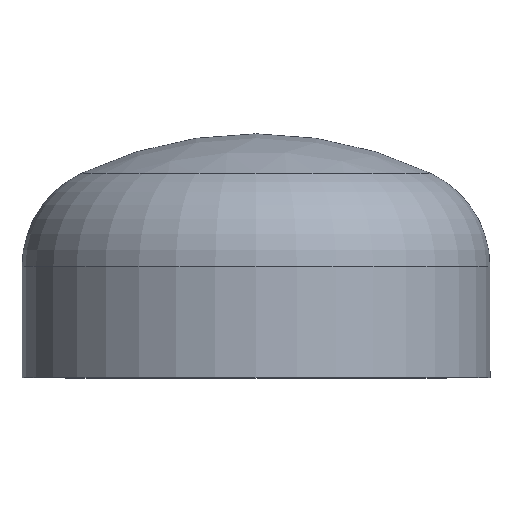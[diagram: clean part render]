
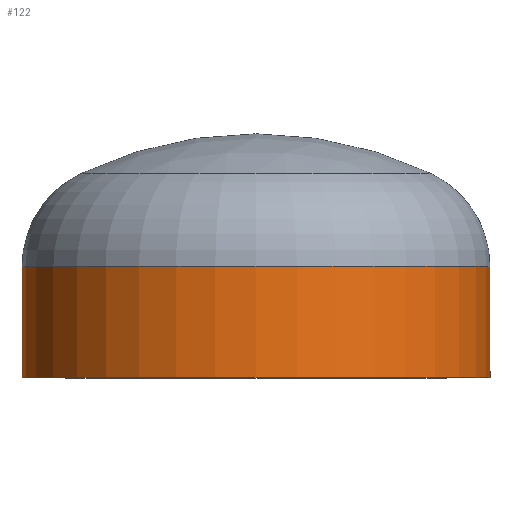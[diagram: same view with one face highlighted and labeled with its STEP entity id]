
A CAD part, top view. The second image highlights one B-rep face of the part: STEP entity #122.
In plain terms, the highlighted cylindrical face has radius 84.15 mm (diameter 168.3 mm), a partial arc.
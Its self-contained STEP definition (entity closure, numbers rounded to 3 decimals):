
#4 = CARTESIAN_POINT ( 'NONE',  ( 0., 0., 0. ) ) ;
#11 = ORIENTED_EDGE ( 'NONE', *, *, #390, .T. ) ;
#18 = ORIENTED_EDGE ( 'NONE', *, *, #232, .F. ) ;
#24 = CARTESIAN_POINT ( 'NONE',  ( -84.15, 40., 0. ) ) ;
#25 = DIRECTION ( 'NONE',  ( 1., 0., 0. ) ) ;
#37 = VERTEX_POINT ( 'NONE', #300 ) ;
#49 = VERTEX_POINT ( 'NONE', #24 ) ;
#60 = CARTESIAN_POINT ( 'NONE',  ( 84.15, 0., 0. ) ) ;
#69 = VERTEX_POINT ( 'NONE', #168 ) ;
#74 = EDGE_LOOP ( 'NONE', ( #11, #79, #227, #18 ) ) ;
#79 = ORIENTED_EDGE ( 'NONE', *, *, #195, .T. ) ;
#89 = VERTEX_POINT ( 'NONE', #353 ) ;
#97 = AXIS2_PLACEMENT_3D ( 'NONE', #335, #368, #349 ) ;
#122 = ADVANCED_FACE ( 'NONE', ( #205 ), #343, .T. ) ;
#153 = DIRECTION ( 'NONE',  ( 0., -1., 0. ) ) ;
#155 = DIRECTION ( 'NONE',  ( 0., -1., 0. ) ) ;
#156 = CARTESIAN_POINT ( 'NONE',  ( -84.15, 0., 0. ) ) ;
#166 = DIRECTION ( 'NONE',  ( 0., -1., 0. ) ) ;
#168 = CARTESIAN_POINT ( 'NONE',  ( 84.15, 0., 0. ) ) ;
#174 = AXIS2_PLACEMENT_3D ( 'NONE', #4, #262, #211 ) ;
#183 = VECTOR ( 'NONE', #153, 1000. ) ;
#190 = VECTOR ( 'NONE', #155, 1000. ) ;
#195 = EDGE_CURVE ( 'NONE', #49, #89, #260, .T. ) ;
#205 = FACE_OUTER_BOUND ( 'NONE', #74, .T. ) ;
#211 = DIRECTION ( 'NONE',  ( 1., 0., 0. ) ) ;
#212 = EDGE_CURVE ( 'NONE', #69, #89, #388, .T. ) ;
#219 = AXIS2_PLACEMENT_3D ( 'NONE', #311, #166, #25 ) ;
#227 = ORIENTED_EDGE ( 'NONE', *, *, #212, .F. ) ;
#232 = EDGE_CURVE ( 'NONE', #37, #69, #338, .T. ) ;
#260 = LINE ( 'NONE', #156, #190 ) ;
#262 = DIRECTION ( 'NONE',  ( 0., -1., 0. ) ) ;
#300 = CARTESIAN_POINT ( 'NONE',  ( 84.15, 40., 0. ) ) ;
#311 = CARTESIAN_POINT ( 'NONE',  ( 0., 40., 0. ) ) ;
#335 = CARTESIAN_POINT ( 'NONE',  ( 0., 0., 0. ) ) ;
#338 = LINE ( 'NONE', #60, #183 ) ;
#343 = CYLINDRICAL_SURFACE ( 'NONE', #97, 84.15 ) ;
#349 = DIRECTION ( 'NONE',  ( 1., 0., 0. ) ) ;
#353 = CARTESIAN_POINT ( 'NONE',  ( -84.15, 0., 0. ) ) ;
#368 = DIRECTION ( 'NONE',  ( 0., -1., 0. ) ) ;
#380 = CIRCLE ( 'NONE', #219, 84.15 ) ;
#388 = CIRCLE ( 'NONE', #174, 84.15 ) ;
#390 = EDGE_CURVE ( 'NONE', #37, #49, #380, .T. ) ;
